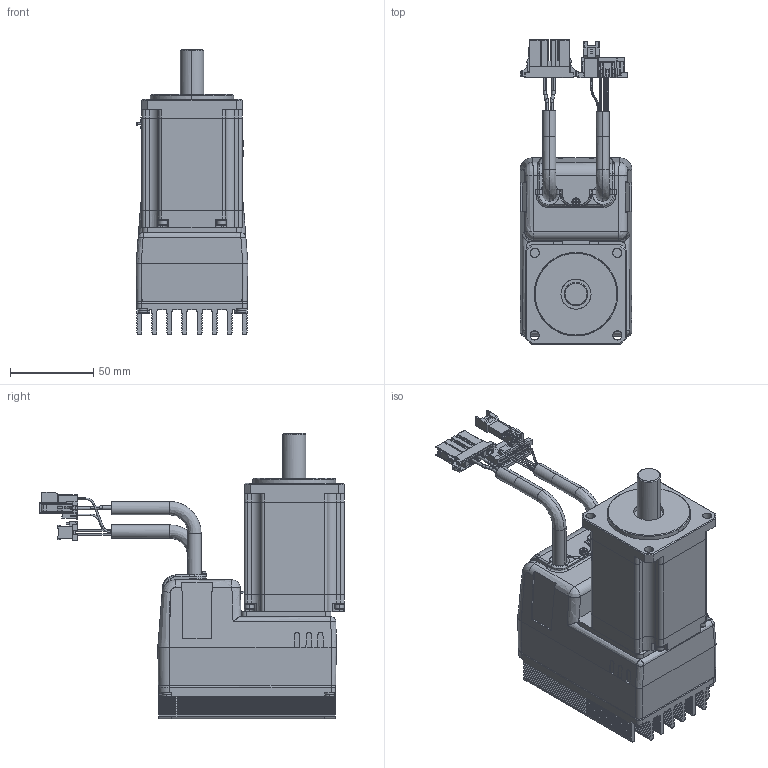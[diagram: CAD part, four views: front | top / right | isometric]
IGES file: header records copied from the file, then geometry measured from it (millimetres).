
Start section: SolidWorks IGES file using analytic representation for surfaces
Global section: file name: C:\Documents and Settings\3DCAD\デスクトップ\ダオドー様用3D\CM2-□-60A0Atest.IGS; native system: SolidWorks 2010; preprocessor: SolidWorks 2010; author: 3DCAD; date: 100827.144200; units: millimetre
Bounding box: 67 x 182.6 x 171.1 mm (x, y, z)
Surface area: 113886.7 mm2 (no closed solid volume)
Topology: 0 solids, 0 shells, 1947 faces, 16310 edges, 16302 vertices
Faces by surface type: bspline 1570, revolution 377
